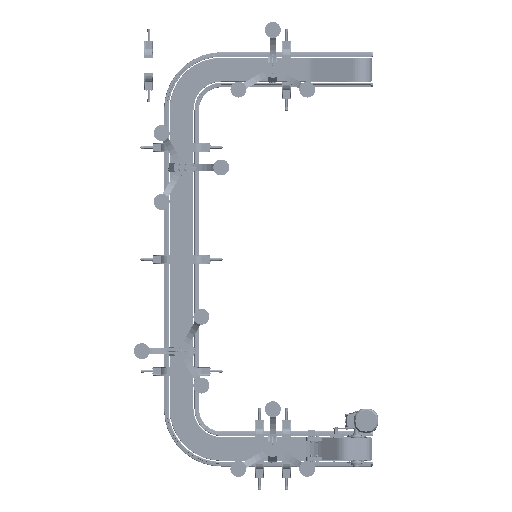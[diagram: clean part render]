
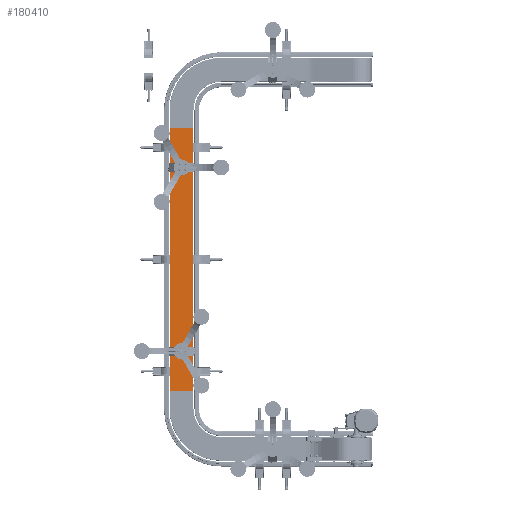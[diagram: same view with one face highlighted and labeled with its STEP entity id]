
A CAD part, front view. The second image highlights one B-rep face of the part: STEP entity #180410.
In plain terms, the highlighted planar face has unit normal (0, -1, 0).
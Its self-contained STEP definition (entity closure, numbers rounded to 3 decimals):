
#694 = CARTESIAN_POINT ( 'NONE',  ( 1610., -105.8, 567.85 ) ) ;
#1253 = EDGE_CURVE ( 'NONE', #112087, #53014, #107857, .T. ) ;
#4482 = PLANE ( 'NONE',  #34542 ) ;
#6523 = CARTESIAN_POINT ( 'NONE',  ( 290., -105.8, 567.85 ) ) ;
#17306 = CARTESIAN_POINT ( 'NONE',  ( 1610., -105.8, 682.15 ) ) ;
#26562 = EDGE_CURVE ( 'NONE', #137676, #43988, #47255, .T. ) ;
#34542 = AXIS2_PLACEMENT_3D ( 'NONE', #6523, #180503, #116289 ) ;
#35998 = EDGE_CURVE ( 'NONE', #137676, #112087, #180117, .T. ) ;
#43988 = VERTEX_POINT ( 'NONE', #86762 ) ;
#47255 = LINE ( 'NONE', #107341, #185166 ) ;
#53014 = VERTEX_POINT ( 'NONE', #694 ) ;
#54765 = DIRECTION ( 'NONE',  ( 1., 0., 0. ) ) ;
#55812 = CARTESIAN_POINT ( 'NONE',  ( 290., -105.8, 682.15 ) ) ;
#70979 = ORIENTED_EDGE ( 'NONE', *, *, #1253, .F. ) ;
#74836 = ORIENTED_EDGE ( 'NONE', *, *, #35998, .F. ) ;
#85050 = VECTOR ( 'NONE', #110900, 1000. ) ;
#86762 = CARTESIAN_POINT ( 'NONE',  ( 290., -105.8, 567.85 ) ) ;
#90975 = EDGE_CURVE ( 'NONE', #43988, #53014, #106846, .T. ) ;
#106846 = LINE ( 'NONE', #203248, #126775 ) ;
#107341 = CARTESIAN_POINT ( 'NONE',  ( 290., -105.8, 567.85 ) ) ;
#107857 = LINE ( 'NONE', #204265, #85050 ) ;
#110900 = DIRECTION ( 'NONE',  ( 0., 0., -1. ) ) ;
#112087 = VERTEX_POINT ( 'NONE', #17306 ) ;
#116289 = DIRECTION ( 'NONE',  ( 0., 0., -1. ) ) ;
#118880 = ORIENTED_EDGE ( 'NONE', *, *, #26562, .T. ) ;
#126775 = VECTOR ( 'NONE', #170062, 1000. ) ;
#129511 = CARTESIAN_POINT ( 'NONE',  ( 290., -105.8, 682.15 ) ) ;
#137676 = VERTEX_POINT ( 'NONE', #129511 ) ;
#141876 = VECTOR ( 'NONE', #54765, 1000. ) ;
#143050 = ORIENTED_EDGE ( 'NONE', *, *, #90975, .T. ) ;
#147377 = FACE_OUTER_BOUND ( 'NONE', #196694, .T. ) ;
#170062 = DIRECTION ( 'NONE',  ( 1., 0., 0. ) ) ;
#180117 = LINE ( 'NONE', #55812, #141876 ) ;
#180410 = ADVANCED_FACE ( 'NONE', ( #147377 ), #4482, .T. ) ;
#180503 = DIRECTION ( 'NONE',  ( 0., -1., 0. ) ) ;
#185166 = VECTOR ( 'NONE', #187125, 1000. ) ;
#187125 = DIRECTION ( 'NONE',  ( 0., 0., -1. ) ) ;
#196694 = EDGE_LOOP ( 'NONE', ( #143050, #70979, #74836, #118880 ) ) ;
#203248 = CARTESIAN_POINT ( 'NONE',  ( 290., -105.8, 567.85 ) ) ;
#204265 = CARTESIAN_POINT ( 'NONE',  ( 1610., -105.8, 567.85 ) ) ;
